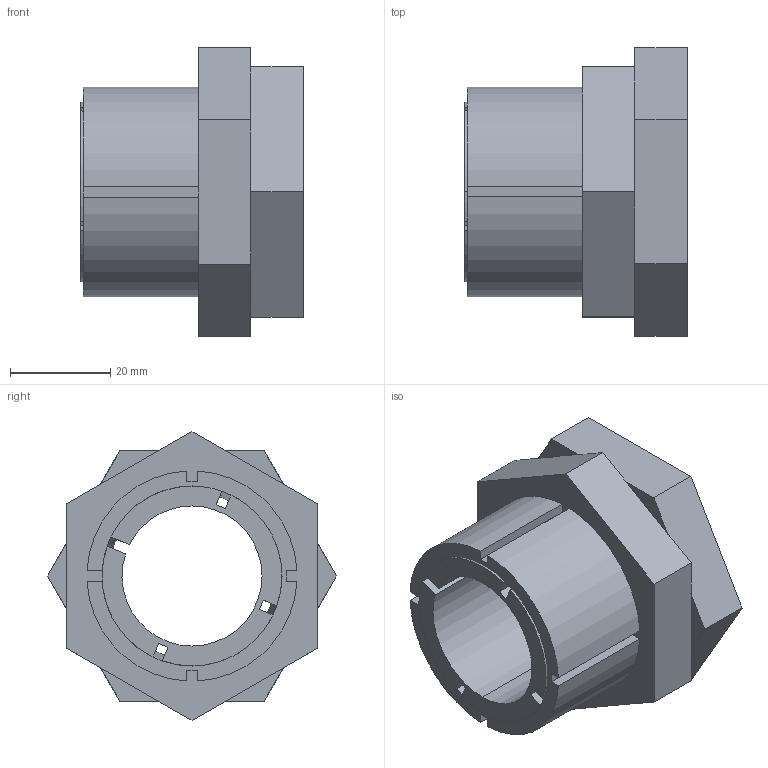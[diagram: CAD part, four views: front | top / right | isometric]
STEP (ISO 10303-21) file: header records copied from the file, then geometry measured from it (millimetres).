
FILE_DESCRIPTION (( 'STEP AP203' ), '1' );
FILE_NAME ('KBS 59 - 28 x 42.STEP', '2015-07-07T21:05:50', ( '' ), ( '' ), 'SwSTEP 2.0', 'SolidWorks 2010', '' );
FILE_SCHEMA (( 'CONFIG_CONTROL_DESIGN' ));
Length unit declared in the file: millimetre
Products named in the file (1): KBS 59 - 28 x 42
Bounding box: 44.5 x 57.73 x 57.73 mm (x, y, z)
Volume: 48834.3 mm3; surface area: 25406.5 mm2
Topology: 3 solids, 3 shells, 78 faces, 204 edges, 132 vertices
Faces by surface type: plane 56, cylinder 14, cone 8
Entity records: 2469 total; most frequent: CARTESIAN_POINT 451, ORIENTED_EDGE 408, DIRECTION 396, EDGE_CURVE 204, LINE 150, VECTOR 150, VERTEX_POINT 132, AXIS2_PLACEMENT_3D 123
